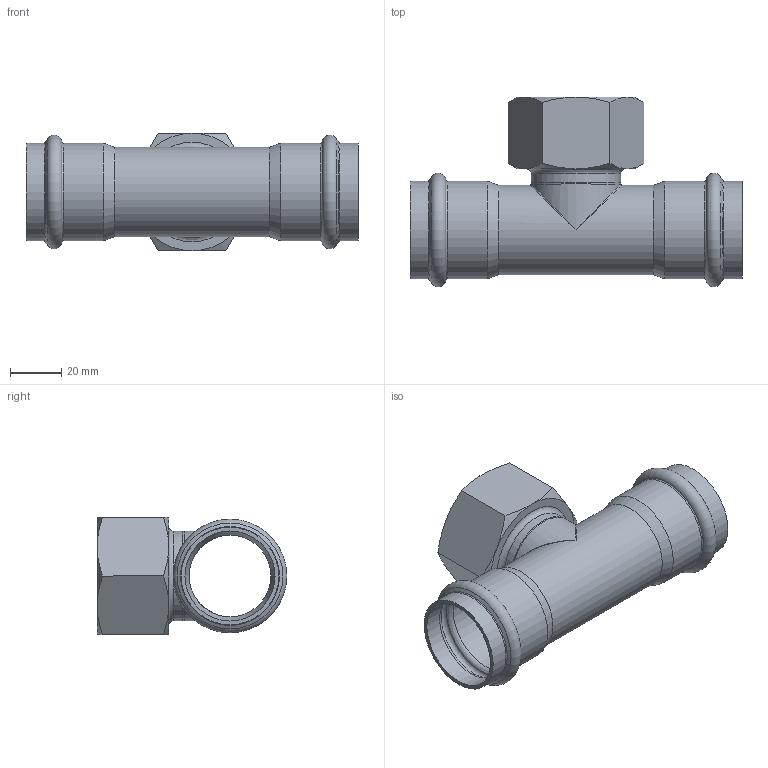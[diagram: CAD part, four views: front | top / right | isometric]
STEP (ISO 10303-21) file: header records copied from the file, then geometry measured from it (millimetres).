
FILE_DESCRIPTION((''),'2;1');
FILE_NAME('G:\Nirosan-Schmiedefeld\Technics\CAD\Bauteile VA\035\69130G3511435(2).stp','2008-08-27T13:57:02',('herberg'),(''),'Autodesk Inventor 2009','Autodesk Inventor 2009','');
FILE_SCHEMA(('AUTOMOTIVE_DESIGN { 1 0 10303 214 1 1 1 1 }'));
Length unit declared in the file: millimetre
Products named in the file (3): 69130G3511435(2); LM_6913035(1); IG35114(1)
Assembly tree (2 placements, depth 2):
  69130G3511435(2)
    LM_6913035(1)
    IG35114(1)
Bounding box: 130 x 74.25 x 46 mm (x, y, z)
Volume: 42781.6 mm3; surface area: 41298.3 mm2
Topology: 2 solids, 2 shells, 66 faces, 147 edges, 79 vertices
Faces by surface type: cone 21, bspline 16, cylinder 13, plane 12, torus 4
Full cylindrical faces by diameter (mm): 32 x2, 35 x3, 35.25 x4, 38.25 x4
Entity records: 2606 total; most frequent: CARTESIAN_POINT 1410, DIRECTION 240, ORIENTED_EDGE 184, AXIS2_PLACEMENT_3D 117, EDGE_LOOP 112, EDGE_CURVE 92, VERTEX_POINT 70, FACE_OUTER_BOUND 66
